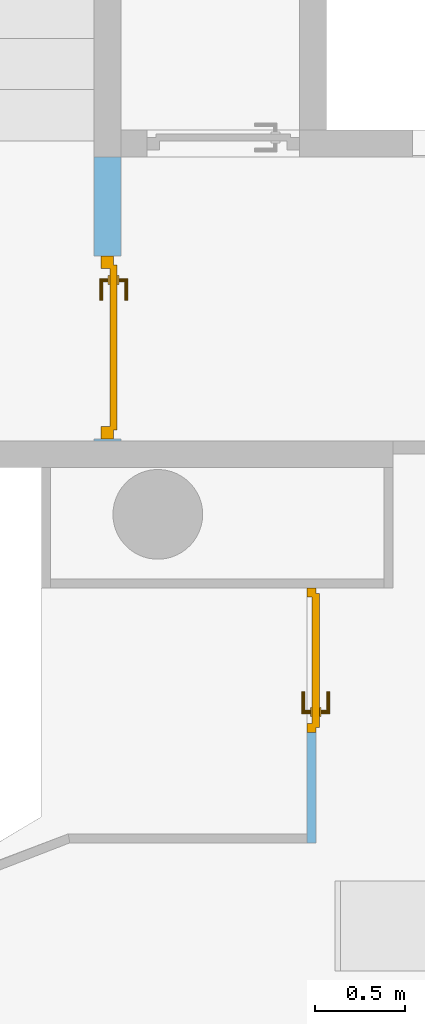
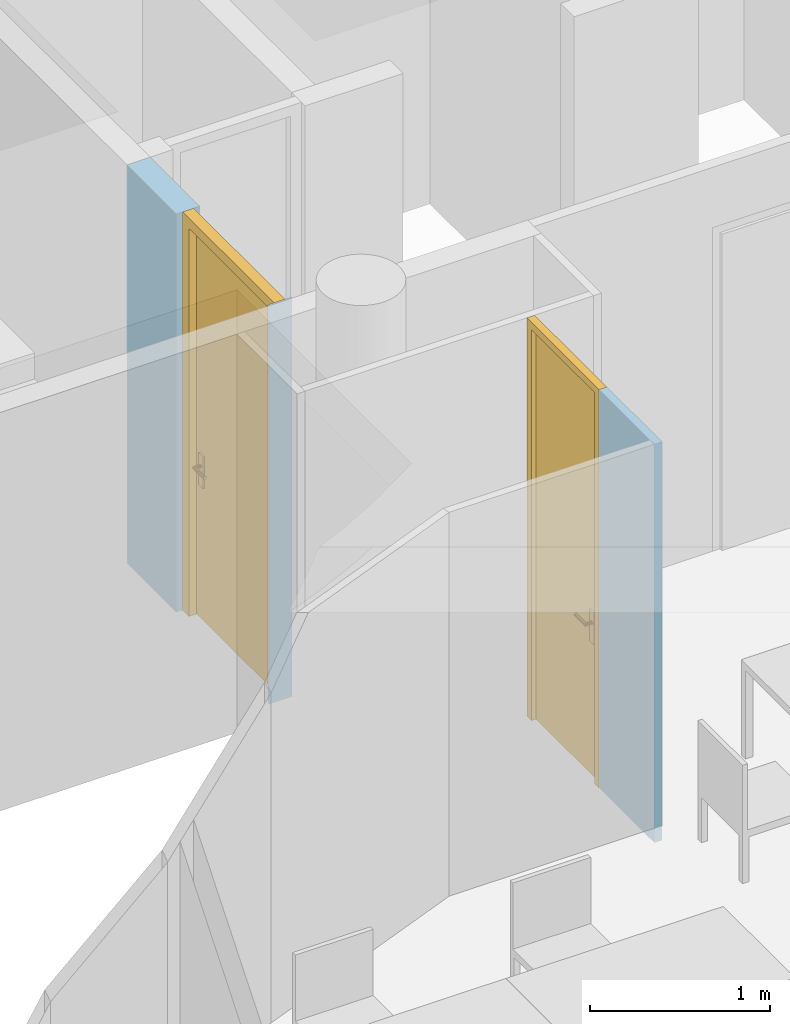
"""IFC4 building model written with IfcOpenShell, lengths in metres."""

from ifc_helpers import new_model, entity, si_unit, converted_unit, derived_unit, frame, frame_2d, origin, origin_with_axes, place, context, subcontext, project, spatial, polyline, rectangle, outline, extrude, faceted_brep, source, transform, mapped, material, layer, layer_set, layer_usage, element, fill, save


model = new_model("IFC4")

# Units and contexts
model_context = context("Model", 3, precision=1e-05, world=origin())
body_context = subcontext(model_context, "Body", "Model", "MODEL_VIEW")
ifc_project = project(units=[si_unit("LENGTHUNIT", "METRE"), si_unit("AREAUNIT", "SQUARE_METRE"), si_unit("VOLUMEUNIT", "CUBIC_METRE"), si_unit("MASSUNIT", "GRAM", prefix="KILO"), converted_unit("PLANEANGLEUNIT", "DEGREE", entity("IfcPlaneAngleMeasure", 0.0174532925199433), si_unit("PLANEANGLEUNIT", "RADIAN"), dimensions=[0, 0, 0, 0, 0, 0, 0]), derived_unit("THERMALTRANSMITTANCEUNIT", [(si_unit("POWERUNIT", "WATT"), 1), (si_unit("THERMODYNAMICTEMPERATUREUNIT", "KELVIN"), -1), (si_unit("LENGTHUNIT", "METRE"), -2)]), derived_unit("VOLUMETRICFLOWRATEUNIT", [(si_unit("LENGTHUNIT", "METRE"), 3), (converted_unit("TIMEUNIT", "hour", entity("IfcTimeMeasure", 3600.0), si_unit("TIMEUNIT", "SECOND"), dimensions=[0, 0, 1, 0, 0, 0, 0]), -1), (si_unit("LENGTHUNIT", "METRE"), -1)])], contexts=[model_context])

# Building, storeys
building_placement = place(None, origin())
building = spatial("IfcBuilding", under=ifc_project, at=building_placement, Name="HABITATGE PLURIFAMILIAR", CompositionType="ELEMENT")
storey_1_placement = place(building_placement, frame((0.0, 0.0, 9.26)))
storey_1 = spatial("IfcBuildingStorey", under=building, at=storey_1_placement, Name="PLANTA SEGONA", CompositionType="ELEMENT", Elevation=9.26)
storey_2_placement = place(storey_1_placement, frame((0.0, 0.0, 6.25)))
storey_2 = spatial("IfcBuildingStorey", under=storey_1, at=storey_2_placement, Name="NOU", CompositionType="PARTIAL")

# Wall, opening, door
ifc_material_1 = material()
ifc_layer_1 = layer(ifc_material_1, 0.05)
ifc_layer_set_1 = layer_set([ifc_layer_1])
ifc_layer_usage_1 = layer_usage(ifc_layer_set_1, "AXIS2", "POSITIVE", 0.0)
wall_1_placement = place(storey_2_placement, frame((417.016984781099, 22.0694598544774, -6.35), z_axis=(0.0, 0.0, 1.0), x_axis=(0.0, 1.0, 0.0)))
wall_1 = element("IfcWall", 1, at=wall_1_placement, inside=storey_2, material=ifc_layer_usage_1, Name="Mampara P2", context=body_context, shape_type="SweptSolid", body=[
    extrude(outline(polyline([(0.0, -0.05), (1.42000000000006, -0.05), (1.42000000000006, 0.0), (0.05, 0.0), (0.05, -0.000811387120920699), (0.0, -0.000811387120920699), (0.0, -0.05)])), frame((0.0, 0.05, 0.0), z_axis=(0.0, 0.0, 1.0), x_axis=(1.0, 0.0, 0.0)), (0.0, 0.0, 1.0), 2.71),
])
opening_1_placement = place(wall_1_placement, frame((1.42000000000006, 0.05, 0.0), z_axis=(0.0, -1.0, 0.0), x_axis=(0.0, 0.0, 1.0)))
opening_1 = element("IfcOpeningElement", 2, at=opening_1_placement, cuts=wall_1, Name="Vano puerta", ObjectType="Opening", context=body_context, shape_type="SweptSolid", body=[
    extrude(outline(polyline([(2.71, 0.806101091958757), (2.71, 0.0), (0.0, 0.0), (0.0, 0.806101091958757), (2.71, 0.806101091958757)])), origin_with_axes(), (0.0, 0.0, 1.0), 0.05),
])
shared_shape_1 = source(origin_with_axes(), body_context, "Body", "Brep", [
    faceted_brep([(0.806101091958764, 0.0499999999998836, 2.71), (0.756101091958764, 0.0499999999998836, 2.71), (0.756101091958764, 0.0499999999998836, 0.0), (0.806101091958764, 0.0499999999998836, 0.0), (0.806101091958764, 0.0, 0.0), (0.756101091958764, 0.0, 0.0), (0.756101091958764, 0.0, 2.71), (0.806101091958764, 0.0, 2.71)], [[[0, 1, 2, 3]], [[4, 5, 6, 7]], [[3, 4, 7, 0]], [[2, 5, 4, 3]], [[1, 6, 5, 2]], [[0, 7, 6, 1]]], orient=[[False], [False], [False], [False], [False], [False]]),
    faceted_brep([(0.0499999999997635, 0.0499999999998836, 2.71), (0.0, 0.0499999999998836, 2.71), (0.0, 0.0499999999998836, 0.0), (0.0499999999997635, 0.0499999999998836, 0.0), (0.0499999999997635, 0.0, 0.0), (0.0, 0.0, 0.0), (0.0, 0.0, 2.71), (0.0499999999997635, 0.0, 2.71)], [[[0, 1, 2, 3]], [[4, 5, 6, 7]], [[3, 4, 7, 0]], [[2, 5, 4, 3]], [[1, 6, 5, 2]], [[0, 7, 6, 1]]], orient=[[False], [False], [False], [False], [False], [False]]),
    faceted_brep([(0.756101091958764, 0.0499999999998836, 2.71), (0.0499999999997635, 0.0499999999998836, 2.71), (0.0499999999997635, 0.0499999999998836, 2.66), (0.756101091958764, 0.0499999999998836, 2.66), (0.756101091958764, 0.0, 2.66), (0.0499999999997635, 0.0, 2.66), (0.0499999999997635, 0.0, 2.71), (0.756101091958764, 0.0, 2.71)], [[[0, 1, 2, 3]], [[4, 5, 6, 7]], [[3, 4, 7, 0]], [[2, 5, 4, 3]], [[1, 6, 5, 2]], [[0, 7, 6, 1]]], orient=[[False], [False], [False], [False], [False], [False]]),
    faceted_brep([(0.776101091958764, 0.0699999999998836, 2.68), (0.0299999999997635, 0.0699999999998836, 2.68), (0.0299999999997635, 0.0699999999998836, 0.0), (0.776101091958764, 0.0699999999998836, 0.0), (0.776101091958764, 0.0299999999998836, 0.0), (0.0299999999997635, 0.0299999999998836, 0.0), (0.0299999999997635, 0.0299999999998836, 2.68), (0.776101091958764, 0.0299999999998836, 2.68)], [[[0, 1, 2, 3]], [[4, 5, 6, 7]], [[3, 4, 7, 0]], [[2, 5, 4, 3]], [[1, 6, 5, 2]], [[0, 7, 6, 1]]], orient=[[False], [False], [False], [False], [False], [False]]),
    faceted_brep([(0.716101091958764, 0.0299999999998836, 1.125), (0.666101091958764, 0.0299999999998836, 1.125), (0.666101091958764, 0.0299999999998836, 0.91), (0.716101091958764, 0.0299999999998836, 0.91), (0.716101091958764, 0.0199999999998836, 0.91), (0.666101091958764, 0.0199999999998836, 0.91), (0.666101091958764, 0.0199999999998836, 1.125), (0.716101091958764, 0.0199999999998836, 1.125)], [[[0, 1, 2, 3]], [[4, 5, 6, 7]], [[3, 4, 7, 0]], [[2, 5, 4, 3]], [[1, 6, 5, 2]], [[0, 7, 6, 1]]], orient=[[False], [False], [False], [False], [False], [False]]),
    faceted_brep([(0.691101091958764, 0.0199999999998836, 1.06), (0.686101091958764, 0.0199999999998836, 1.05866025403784), (0.68244083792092, 0.0199999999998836, 1.055), (0.681101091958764, 0.0199999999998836, 1.05), (0.68244083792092, 0.0199999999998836, 1.045), (0.686101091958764, 0.0199999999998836, 1.04133974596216), (0.691101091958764, 0.0199999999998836, 1.04), (0.696101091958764, 0.0199999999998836, 1.04133974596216), (0.699761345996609, 0.0199999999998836, 1.045), (0.701101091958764, 0.0199999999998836, 1.05), (0.699761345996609, 0.0199999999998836, 1.055), (0.696101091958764, 0.0199999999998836, 1.05866025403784), (0.696101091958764, -0.0250000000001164, 1.05866025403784), (0.691101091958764, -0.0200000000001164, 1.06), (0.699761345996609, -0.028660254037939, 1.055), (0.701101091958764, -0.0300000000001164, 1.05), (0.699761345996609, -0.028660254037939, 1.045), (0.696101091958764, -0.0250000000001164, 1.04133974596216), (0.691101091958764, -0.0200000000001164, 1.04), (0.686101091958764, -0.0150000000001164, 1.04133974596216), (0.68244083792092, -0.0113397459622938, 1.045), (0.681101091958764, -0.0100000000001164, 1.05), (0.68244083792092, -0.0113397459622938, 1.055), (0.686101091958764, -0.0150000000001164, 1.05866025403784), (0.576101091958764, -0.0200000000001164, 1.06), (0.576101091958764, -0.0250000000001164, 1.05866025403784), (0.576101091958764, -0.028660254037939, 1.055), (0.576101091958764, -0.0300000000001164, 1.05), (0.576101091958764, -0.028660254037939, 1.045), (0.576101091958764, -0.0250000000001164, 1.04133974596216), (0.576101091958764, -0.0200000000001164, 1.04), (0.576101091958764, -0.0150000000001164, 1.04133974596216), (0.576101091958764, -0.0113397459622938, 1.045), (0.576101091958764, -0.0100000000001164, 1.05), (0.576101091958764, -0.0113397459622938, 1.055), (0.576101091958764, -0.0150000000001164, 1.05866025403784)], [[[0, 1, 2, 3, 4, 5, 6, 7, 8, 9, 10, 11]], [[0, 11, 12, 13]], [[11, 10, 14, 12]], [[10, 9, 15, 14]], [[9, 8, 16, 15]], [[8, 7, 17, 16]], [[7, 6, 18, 17]], [[6, 5, 19, 18]], [[5, 4, 20, 19]], [[4, 3, 21, 20]], [[3, 2, 22, 21]], [[2, 1, 23, 22]], [[1, 0, 13, 23]], [[24, 25, 26, 27, 28, 29, 30, 31, 32, 33, 34, 35]], [[13, 12, 25, 24]], [[12, 14, 26, 25]], [[14, 15, 27, 26]], [[15, 16, 28, 27]], [[16, 17, 29, 28]], [[17, 18, 30, 29]], [[18, 19, 31, 30]], [[19, 20, 32, 31]], [[20, 21, 33, 32]], [[21, 22, 34, 33]], [[22, 23, 35, 34]], [[23, 13, 24, 35]]], orient=[[False], [False], [False], [False], [False], [False], [False], [False], [False], [False], [False], [False], [False], [False], [False], [False], [False], [False], [False], [False], [False], [False], [False], [False], [False], [False]]),
    faceted_brep([(0.716101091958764, 0.0699999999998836, 1.125), (0.716101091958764, 0.0699999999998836, 0.91), (0.666101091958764, 0.0699999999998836, 0.91), (0.666101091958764, 0.0699999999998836, 1.125), (0.716101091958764, 0.0799999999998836, 0.91), (0.716101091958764, 0.0799999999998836, 1.125), (0.666101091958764, 0.0799999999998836, 1.125), (0.666101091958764, 0.0799999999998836, 0.91)], [[[0, 1, 2, 3]], [[4, 5, 6, 7]], [[1, 0, 5, 4]], [[2, 1, 4, 7]], [[3, 2, 7, 6]], [[0, 3, 6, 5]]], orient=[[False], [False], [False], [False], [False], [False]]),
    faceted_brep([(0.691101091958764, 0.0799999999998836, 1.06), (0.696101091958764, 0.0799999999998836, 1.05866025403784), (0.699761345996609, 0.0799999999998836, 1.055), (0.701101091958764, 0.0799999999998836, 1.05), (0.699761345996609, 0.0799999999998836, 1.045), (0.696101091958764, 0.0799999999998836, 1.04133974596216), (0.691101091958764, 0.0799999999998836, 1.04), (0.686101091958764, 0.0799999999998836, 1.04133974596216), (0.68244083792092, 0.0799999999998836, 1.045), (0.681101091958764, 0.0799999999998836, 1.05), (0.68244083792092, 0.0799999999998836, 1.055), (0.686101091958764, 0.0799999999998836, 1.05866025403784), (0.691101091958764, 0.119999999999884, 1.06), (0.696101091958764, 0.124999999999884, 1.05866025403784), (0.699761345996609, 0.128660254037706, 1.055), (0.701101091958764, 0.129999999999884, 1.05), (0.699761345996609, 0.128660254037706, 1.045), (0.696101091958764, 0.124999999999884, 1.04133974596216), (0.691101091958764, 0.119999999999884, 1.04), (0.686101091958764, 0.114999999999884, 1.04133974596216), (0.68244083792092, 0.111339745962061, 1.045), (0.681101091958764, 0.109999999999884, 1.05), (0.68244083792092, 0.111339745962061, 1.055), (0.686101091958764, 0.114999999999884, 1.05866025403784), (0.576101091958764, 0.119999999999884, 1.06), (0.576101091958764, 0.114999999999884, 1.05866025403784), (0.576101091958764, 0.111339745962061, 1.055), (0.576101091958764, 0.109999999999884, 1.05), (0.576101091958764, 0.111339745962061, 1.045), (0.576101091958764, 0.114999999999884, 1.04133974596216), (0.576101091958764, 0.119999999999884, 1.04), (0.576101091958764, 0.124999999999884, 1.04133974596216), (0.576101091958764, 0.128660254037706, 1.045), (0.576101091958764, 0.129999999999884, 1.05), (0.576101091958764, 0.128660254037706, 1.055), (0.576101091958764, 0.124999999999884, 1.05866025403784)], [[[0, 1, 2, 3, 4, 5, 6, 7, 8, 9, 10, 11]], [[0, 12, 13, 1]], [[1, 13, 14, 2]], [[2, 14, 15, 3]], [[3, 15, 16, 4]], [[4, 16, 17, 5]], [[5, 17, 18, 6]], [[6, 18, 19, 7]], [[7, 19, 20, 8]], [[8, 20, 21, 9]], [[9, 21, 22, 10]], [[10, 22, 23, 11]], [[11, 23, 12, 0]], [[24, 25, 26, 27, 28, 29, 30, 31, 32, 33, 34, 35]], [[12, 24, 35, 13]], [[13, 35, 34, 14]], [[14, 34, 33, 15]], [[15, 33, 32, 16]], [[16, 32, 31, 17]], [[17, 31, 30, 18]], [[18, 30, 29, 19]], [[19, 29, 28, 20]], [[20, 28, 27, 21]], [[21, 27, 26, 22]], [[22, 26, 25, 23]], [[23, 25, 24, 12]]], orient=[[False], [False], [False], [False], [False], [False], [False], [False], [False], [False], [False], [False], [False], [False], [False], [False], [False], [False], [False], [False], [False], [False], [False], [False], [False], [False]]),
])
door_1_placement = place(opening_1_placement, frame((0.0, 0.0, 0.0), z_axis=(1.0, 0.0, 0.0), x_axis=(0.0, 1.0, 0.0)))
door_1 = element("IfcDoor", 3, at=door_1_placement, inside=storey_2, Name="Porta P2", OperationType="USERDEFINED", OverallHeight=2.71, OverallWidth=0.8061, PredefinedType="DOOR", context=body_context, shape_type="MappedRepresentation", body=[
    mapped(shared_shape_1, transform((0.0, 0.0, 0.0), x_axis=(1.0, 0.0, 0.0), y_axis=(0.0, 1.0, 0.0), z_axis=(0.0, 0.0, 1.0), scale=1.0)),
])
fill(opening_1, door_1)

ifc_material_2 = material()
ifc_layer_2 = layer(ifc_material_2, 0.15)
ifc_layer_set_2 = layer_set([ifc_layer_2])
ifc_layer_usage_2 = layer_usage(ifc_layer_set_2, "AXIS2", "POSITIVE", 0.0)
wall_2_placement = place(storey_2_placement, frame((415.780797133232, 25.8894598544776, -6.35), z_axis=(0.0, 0.0, 1.0), x_axis=(0.0, -1.0, 0.0)))
wall_2 = element("IfcWall", 4, at=wall_2_placement, inside=storey_2, material=ifc_layer_usage_2, Name="Evans P2", context=body_context, shape_type="SweptSolid", body=[
    extrude(rectangle(XDim=1.58, YDim=0.15, at=frame_2d((0.790000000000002, 0.075), x_axis=(1.0, 0.0))), origin_with_axes(), (0.0, 0.0, 1.0), 2.71),
])
opening_2_placement = place(wall_2_placement, frame((1.57066936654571, 0.15, 0.0), z_axis=(0.0, -1.0, 0.0), x_axis=(0.0, 0.0, 1.0)))
opening_2 = element("IfcOpeningElement", 5, at=opening_2_placement, cuts=wall_2, Name="Vano puerta", ObjectType="Opening", context=body_context, shape_type="SweptSolid", body=[
    extrude(outline(polyline([(2.71, 1.02087368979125), (2.71, 0.0), (0.0, 0.0), (0.0, 1.02087368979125), (2.71, 1.02087368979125)])), origin_with_axes(), (0.0, 0.0, 1.0), 0.15),
])
shared_shape_2 = source(origin_with_axes(), body_context, "Body", "Brep", [
    faceted_brep([(0.0, 0.0699999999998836, 2.71), (0.0, 0.0699999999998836, 0.0), (0.0700000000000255, 0.0699999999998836, 0.0), (0.0700000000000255, 0.0699999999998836, 2.71), (0.0, 0.0, 0.0), (0.0, 0.0, 2.71), (0.0700000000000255, 0.0, 2.71), (0.0700000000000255, 0.0, 0.0)], [[[0, 1, 2, 3]], [[4, 5, 6, 7]], [[1, 0, 5, 4]], [[2, 1, 4, 7]], [[3, 2, 7, 6]], [[0, 3, 6, 5]]], orient=[[False], [False], [False], [False], [False], [False]]),
    faceted_brep([(0.950873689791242, 0.0699999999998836, 2.71), (0.950873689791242, 0.0699999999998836, 0.0), (1.02087368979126, 0.0699999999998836, 0.0), (1.02087368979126, 0.0699999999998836, 2.71), (0.950873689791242, 0.0, 0.0), (0.950873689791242, 0.0, 2.71), (1.02087368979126, 0.0, 2.71), (1.02087368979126, 0.0, 0.0)], [[[0, 1, 2, 3]], [[4, 5, 6, 7]], [[1, 0, 5, 4]], [[2, 1, 4, 7]], [[3, 2, 7, 6]], [[0, 3, 6, 5]]], orient=[[False], [False], [False], [False], [False], [False]]),
    faceted_brep([(0.0700000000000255, 0.0699999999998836, 2.71), (0.0700000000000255, 0.0699999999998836, 2.64), (0.950873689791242, 0.0699999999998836, 2.64), (0.950873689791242, 0.0699999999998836, 2.71), (0.0700000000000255, 0.0, 2.64), (0.0700000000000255, 0.0, 2.71), (0.950873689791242, 0.0, 2.71), (0.950873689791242, 0.0, 2.64)], [[[0, 1, 2, 3]], [[4, 5, 6, 7]], [[1, 0, 5, 4]], [[2, 1, 4, 7]], [[3, 2, 7, 6]], [[0, 3, 6, 5]]], orient=[[False], [False], [False], [False], [False], [False]]),
    faceted_brep([(0.0500000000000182, 0.0899999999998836, 2.66), (0.0500000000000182, 0.0899999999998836, 0.0), (0.97087368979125, 0.0899999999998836, 0.0), (0.97087368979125, 0.0899999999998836, 2.66), (0.0500000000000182, 0.0499999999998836, 0.0), (0.0500000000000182, 0.0499999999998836, 2.66), (0.97087368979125, 0.0499999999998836, 2.66), (0.97087368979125, 0.0499999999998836, 0.0)], [[[0, 1, 2, 3]], [[4, 5, 6, 7]], [[1, 0, 5, 4]], [[2, 1, 4, 7]], [[3, 2, 7, 6]], [[0, 3, 6, 5]]], orient=[[False], [False], [False], [False], [False], [False]]),
    faceted_brep([(0.110000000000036, 0.0499999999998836, 1.125), (0.110000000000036, 0.0499999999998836, 0.91), (0.160000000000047, 0.0499999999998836, 0.91), (0.160000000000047, 0.0499999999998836, 1.125), (0.110000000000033, 0.0399999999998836, 0.91), (0.110000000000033, 0.0399999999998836, 1.125), (0.160000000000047, 0.0399999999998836, 1.125), (0.160000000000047, 0.0399999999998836, 0.91)], [[[0, 1, 2, 3]], [[4, 5, 6, 7]], [[1, 0, 5, 4]], [[2, 1, 4, 7]], [[3, 2, 7, 6]], [[0, 3, 6, 5]]], orient=[[False], [False], [False], [False], [False], [False]]),
    faceted_brep([(0.13500000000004, 0.0399999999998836, 1.06), (0.13000000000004, 0.0399999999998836, 1.05866025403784), (0.126339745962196, 0.0399999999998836, 1.055), (0.12500000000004, 0.0399999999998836, 1.05), (0.126339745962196, 0.0399999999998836, 1.045), (0.13000000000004, 0.0399999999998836, 1.04133974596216), (0.13500000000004, 0.0399999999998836, 1.04), (0.140000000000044, 0.0399999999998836, 1.04133974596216), (0.143660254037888, 0.0399999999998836, 1.045), (0.145000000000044, 0.0399999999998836, 1.05), (0.143660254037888, 0.0399999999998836, 1.055), (0.140000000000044, 0.0399999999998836, 1.05866025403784), (0.13500000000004, 0.0, 1.06), (0.13000000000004, -0.00500000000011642, 1.05866025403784), (0.126339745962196, -0.00866025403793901, 1.055), (0.12500000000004, -0.0100000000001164, 1.05), (0.126339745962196, -0.00866025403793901, 1.045), (0.13000000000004, -0.00500000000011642, 1.04133974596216), (0.13500000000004, 0.0, 1.04), (0.140000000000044, 0.00499999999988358, 1.04133974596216), (0.143660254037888, 0.00866025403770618, 1.045), (0.145000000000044, 0.00999999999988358, 1.05), (0.143660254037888, 0.00866025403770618, 1.055), (0.140000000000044, 0.00499999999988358, 1.05866025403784), (0.250000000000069, 0.0, 1.06), (0.250000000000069, 0.00499999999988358, 1.05866025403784), (0.250000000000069, 0.00866025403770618, 1.055), (0.250000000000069, 0.00999999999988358, 1.05), (0.250000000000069, 0.00866025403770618, 1.045), (0.250000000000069, 0.00499999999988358, 1.04133974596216), (0.250000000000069, 0.0, 1.04), (0.250000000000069, -0.00500000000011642, 1.04133974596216), (0.250000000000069, -0.00866025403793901, 1.045), (0.250000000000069, -0.0100000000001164, 1.05), (0.250000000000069, -0.00866025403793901, 1.055), (0.250000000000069, -0.00500000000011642, 1.05866025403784)], [[[0, 1, 2, 3, 4, 5, 6, 7, 8, 9, 10, 11]], [[0, 12, 13, 1]], [[1, 13, 14, 2]], [[2, 14, 15, 3]], [[3, 15, 16, 4]], [[4, 16, 17, 5]], [[5, 17, 18, 6]], [[6, 18, 19, 7]], [[7, 19, 20, 8]], [[8, 20, 21, 9]], [[9, 21, 22, 10]], [[10, 22, 23, 11]], [[11, 23, 12, 0]], [[24, 25, 26, 27, 28, 29, 30, 31, 32, 33, 34, 35]], [[12, 24, 35, 13]], [[13, 35, 34, 14]], [[14, 34, 33, 15]], [[15, 33, 32, 16]], [[16, 32, 31, 17]], [[17, 31, 30, 18]], [[18, 30, 29, 19]], [[19, 29, 28, 20]], [[20, 28, 27, 21]], [[21, 27, 26, 22]], [[22, 26, 25, 23]], [[23, 25, 24, 12]]], orient=[[False], [False], [False], [False], [False], [False], [False], [False], [False], [False], [False], [False], [False], [False], [False], [False], [False], [False], [False], [False], [False], [False], [False], [False], [False], [False]]),
    faceted_brep([(0.110000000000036, 0.0899999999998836, 1.125), (0.160000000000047, 0.0899999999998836, 1.125), (0.160000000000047, 0.0899999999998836, 0.91), (0.110000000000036, 0.0899999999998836, 0.91), (0.110000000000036, 0.0999999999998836, 0.91), (0.160000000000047, 0.0999999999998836, 0.91), (0.160000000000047, 0.0999999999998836, 1.125), (0.110000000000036, 0.0999999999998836, 1.125)], [[[0, 1, 2, 3]], [[4, 5, 6, 7]], [[3, 4, 7, 0]], [[2, 5, 4, 3]], [[1, 6, 5, 2]], [[0, 7, 6, 1]]], orient=[[False], [False], [False], [False], [False], [False]]),
    faceted_brep([(0.13500000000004, 0.0999999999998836, 1.06), (0.140000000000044, 0.0999999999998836, 1.05866025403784), (0.143660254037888, 0.0999999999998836, 1.055), (0.145000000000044, 0.0999999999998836, 1.05), (0.143660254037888, 0.0999999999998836, 1.045), (0.140000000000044, 0.0999999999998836, 1.04133974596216), (0.13500000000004, 0.0999999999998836, 1.04), (0.13000000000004, 0.0999999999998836, 1.04133974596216), (0.126339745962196, 0.0999999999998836, 1.045), (0.12500000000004, 0.0999999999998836, 1.05), (0.126339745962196, 0.0999999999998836, 1.055), (0.13000000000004, 0.0999999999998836, 1.05866025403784), (0.13000000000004, 0.144999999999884, 1.05866025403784), (0.13500000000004, 0.139999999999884, 1.06), (0.126339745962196, 0.148660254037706, 1.055), (0.12500000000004, 0.149999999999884, 1.05), (0.126339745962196, 0.148660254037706, 1.045), (0.13000000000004, 0.144999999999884, 1.04133974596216), (0.13500000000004, 0.139999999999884, 1.04), (0.140000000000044, 0.134999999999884, 1.04133974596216), (0.143660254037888, 0.131339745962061, 1.045), (0.145000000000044, 0.129999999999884, 1.05), (0.143660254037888, 0.131339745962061, 1.055), (0.140000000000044, 0.134999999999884, 1.05866025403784), (0.250000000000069, 0.139999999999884, 1.06), (0.250000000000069, 0.144999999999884, 1.05866025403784), (0.250000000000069, 0.148660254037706, 1.055), (0.250000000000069, 0.149999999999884, 1.05), (0.250000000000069, 0.148660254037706, 1.045), (0.250000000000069, 0.144999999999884, 1.04133974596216), (0.250000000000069, 0.139999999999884, 1.04), (0.250000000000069, 0.134999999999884, 1.04133974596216), (0.250000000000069, 0.131339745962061, 1.045), (0.250000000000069, 0.129999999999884, 1.05), (0.250000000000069, 0.131339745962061, 1.055), (0.250000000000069, 0.134999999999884, 1.05866025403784)], [[[0, 1, 2, 3, 4, 5, 6, 7, 8, 9, 10, 11]], [[0, 11, 12, 13]], [[11, 10, 14, 12]], [[10, 9, 15, 14]], [[9, 8, 16, 15]], [[8, 7, 17, 16]], [[7, 6, 18, 17]], [[6, 5, 19, 18]], [[5, 4, 20, 19]], [[4, 3, 21, 20]], [[3, 2, 22, 21]], [[2, 1, 23, 22]], [[1, 0, 13, 23]], [[24, 25, 26, 27, 28, 29, 30, 31, 32, 33, 34, 35]], [[13, 12, 25, 24]], [[12, 14, 26, 25]], [[14, 15, 27, 26]], [[15, 16, 28, 27]], [[16, 17, 29, 28]], [[17, 18, 30, 29]], [[18, 19, 31, 30]], [[19, 20, 32, 31]], [[20, 21, 33, 32]], [[21, 22, 34, 33]], [[22, 23, 35, 34]], [[23, 13, 24, 35]]], orient=[[False], [False], [False], [False], [False], [False], [False], [False], [False], [False], [False], [False], [False], [False], [False], [False], [False], [False], [False], [False], [False], [False], [False], [False], [False], [False]]),
])
door_2_placement = place(opening_2_placement, frame((0.0, 1.02087368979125, 0.11), z_axis=(1.0, 0.0, 0.0), x_axis=(0.0, -1.0, 0.0)))
door_2 = element("IfcDoor", 6, at=door_2_placement, inside=storey_2, Name="Porta P2", OperationType="USERDEFINED", OverallHeight=2.71, OverallWidth=1.02087, PredefinedType="DOOR", context=body_context, shape_type="MappedRepresentation", body=[
    mapped(shared_shape_2, transform((0.0, 0.0, 0.0), x_axis=(1.0, 0.0, 0.0), y_axis=(0.0, 1.0, 0.0), z_axis=(0.0, 0.0, 1.0), scale=1.0)),
])
fill(opening_2, door_2)

save(model, "model.ifc")
